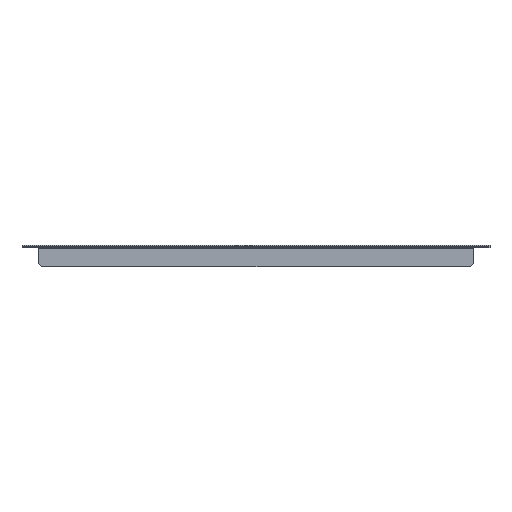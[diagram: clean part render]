
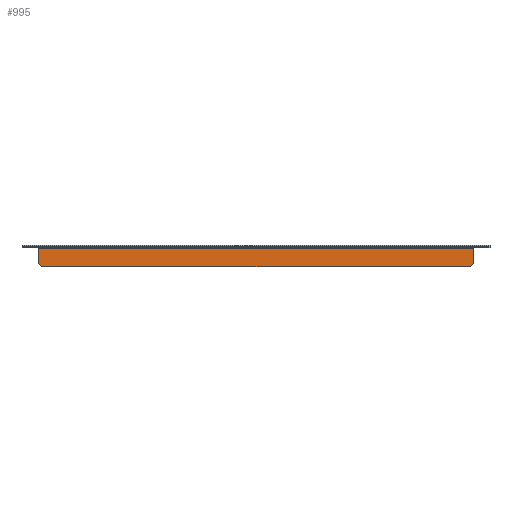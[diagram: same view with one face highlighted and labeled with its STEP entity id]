
A CAD part, top view. The second image highlights one B-rep face of the part: STEP entity #995.
In plain terms, the highlighted planar face has unit normal (0, 0, 1).
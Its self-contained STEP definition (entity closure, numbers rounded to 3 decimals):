
#8 = ORIENTED_EDGE ( 'NONE', *, *, #1285, .F. ) ;
#23 = LINE ( 'NONE', #166, #189 ) ;
#38 = CARTESIAN_POINT ( 'NONE',  ( 195.45, -17.8, -1.2 ) ) ;
#45 = ORIENTED_EDGE ( 'NONE', *, *, #1364, .T. ) ;
#55 = EDGE_CURVE ( 'NONE', #752, #1648, #1630, .T. ) ;
#61 = VECTOR ( 'NONE', #557, 1000. ) ;
#70 = PLANE ( 'NONE',  #79 ) ;
#79 = AXIS2_PLACEMENT_3D ( 'NONE', #981, #1243, #473 ) ;
#91 = CARTESIAN_POINT ( 'NONE',  ( 195.45, -1.2, -1.2 ) ) ;
#144 = CARTESIAN_POINT ( 'NONE',  ( 192.45, -17.8, -1.2 ) ) ;
#151 = VECTOR ( 'NONE', #433, 1000. ) ;
#166 = CARTESIAN_POINT ( 'NONE',  ( -195.45, -1.2, -1.2 ) ) ;
#189 = VECTOR ( 'NONE', #1187, 1000. ) ;
#235 = CARTESIAN_POINT ( 'NONE',  ( -195.45, -17.8, -1.2 ) ) ;
#239 = CARTESIAN_POINT ( 'NONE',  ( -192.45, -17.8, -1.2 ) ) ;
#358 = DIRECTION ( 'NONE',  ( 0.707, 0.707, 0. ) ) ;
#433 = DIRECTION ( 'NONE',  ( 0., 1., 0. ) ) ;
#456 = EDGE_CURVE ( 'NONE', #997, #1481, #507, .T. ) ;
#472 = DIRECTION ( 'NONE',  ( -1., 0., 0. ) ) ;
#473 = DIRECTION ( 'NONE',  ( 0., 1., 0. ) ) ;
#479 = CARTESIAN_POINT ( 'NONE',  ( 192.45, -17.8, -1.2 ) ) ;
#483 = LINE ( 'NONE', #38, #61 ) ;
#496 = CARTESIAN_POINT ( 'NONE',  ( 195.45, -14.8, -1.2 ) ) ;
#507 = LINE ( 'NONE', #1467, #151 ) ;
#537 = FACE_OUTER_BOUND ( 'NONE', #851, .T. ) ;
#557 = DIRECTION ( 'NONE',  ( 0., -1., 0. ) ) ;
#610 = VERTEX_POINT ( 'NONE', #496 ) ;
#706 = VECTOR ( 'NONE', #472, 1000. ) ;
#715 = CARTESIAN_POINT ( 'NONE',  ( -195.45, -14.8, -1.2 ) ) ;
#745 = LINE ( 'NONE', #1308, #1295 ) ;
#752 = VERTEX_POINT ( 'NONE', #144 ) ;
#851 = EDGE_LOOP ( 'NONE', ( #869, #45, #996, #1264, #1054, #8 ) ) ;
#869 = ORIENTED_EDGE ( 'NONE', *, *, #456, .F. ) ;
#981 = CARTESIAN_POINT ( 'NONE',  ( 0., 0., -1.2 ) ) ;
#995 = ADVANCED_FACE ( 'NONE', ( #537 ), #70, .F. ) ;
#996 = ORIENTED_EDGE ( 'NONE', *, *, #55, .F. ) ;
#997 = VERTEX_POINT ( 'NONE', #715 ) ;
#1049 = VERTEX_POINT ( 'NONE', #91 ) ;
#1054 = ORIENTED_EDGE ( 'NONE', *, *, #1296, .F. ) ;
#1068 = LINE ( 'NONE', #479, #1156 ) ;
#1152 = EDGE_CURVE ( 'NONE', #752, #610, #1068, .T. ) ;
#1156 = VECTOR ( 'NONE', #358, 1000. ) ;
#1187 = DIRECTION ( 'NONE',  ( 1., 0., 0. ) ) ;
#1203 = DIRECTION ( 'NONE',  ( 0.707, -0.707, 0. ) ) ;
#1243 = DIRECTION ( 'NONE',  ( 0., 0., -1. ) ) ;
#1264 = ORIENTED_EDGE ( 'NONE', *, *, #1152, .T. ) ;
#1285 = EDGE_CURVE ( 'NONE', #1481, #1049, #23, .T. ) ;
#1295 = VECTOR ( 'NONE', #1203, 1000. ) ;
#1296 = EDGE_CURVE ( 'NONE', #1049, #610, #483, .T. ) ;
#1308 = CARTESIAN_POINT ( 'NONE',  ( -195.45, -14.8, -1.2 ) ) ;
#1364 = EDGE_CURVE ( 'NONE', #997, #1648, #745, .T. ) ;
#1467 = CARTESIAN_POINT ( 'NONE',  ( -195.45, -1., -1.2 ) ) ;
#1481 = VERTEX_POINT ( 'NONE', #1600 ) ;
#1600 = CARTESIAN_POINT ( 'NONE',  ( -195.45, -1.2, -1.2 ) ) ;
#1630 = LINE ( 'NONE', #235, #706 ) ;
#1648 = VERTEX_POINT ( 'NONE', #239 ) ;
